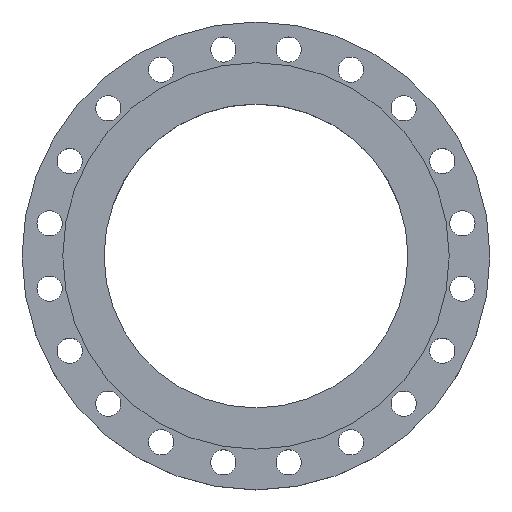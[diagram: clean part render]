
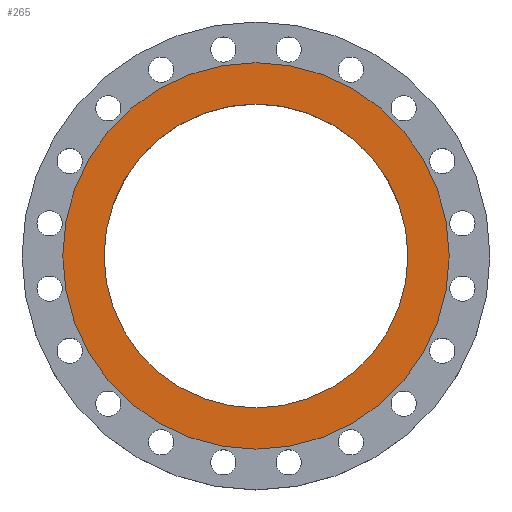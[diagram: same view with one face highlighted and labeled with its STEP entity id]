
A CAD part, top view. The second image highlights one B-rep face of the part: STEP entity #265.
In plain terms, the highlighted planar face has unit normal (0, 0, 1).
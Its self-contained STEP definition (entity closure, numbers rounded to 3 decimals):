
#11 = EDGE_CURVE ( 'NONE', #705, #2032, #830, .T. ) ;
#57 = AXIS2_PLACEMENT_3D ( 'NONE', #1629, #1624, #1623 ) ;
#92 = AXIS2_PLACEMENT_3D ( 'NONE', #173, #408, #323 ) ;
#133 = AXIS2_PLACEMENT_3D ( 'NONE', #1433, #1432, #1428 ) ;
#154 = AXIS2_PLACEMENT_3D ( 'NONE', #922, #921, #920 ) ;
#173 = CARTESIAN_POINT ( 'NONE',  ( 0., 0., 16. ) ) ;
#208 = CIRCLE ( 'NONE', #57, 367.5 ) ;
#253 = AXIS2_PLACEMENT_3D ( 'NONE', #1973, #1971, #1969 ) ;
#265 = ADVANCED_FACE ( 'NONE', ( #1981, #1977 ), #1974, .T. ) ;
#323 = DIRECTION ( 'NONE',  ( 1., 0., 0. ) ) ;
#408 = DIRECTION ( 'NONE',  ( 0., 0., 1. ) ) ;
#437 = VERTEX_POINT ( 'NONE', #1243 ) ;
#452 = CARTESIAN_POINT ( 'NONE',  ( -367.5, 0., 16. ) ) ;
#517 = ORIENTED_EDGE ( 'NONE', *, *, #1334, .T. ) ;
#705 = VERTEX_POINT ( 'NONE', #1044 ) ;
#830 = CIRCLE ( 'NONE', #92, 367.5 ) ;
#845 = ORIENTED_EDGE ( 'NONE', *, *, #11, .T. ) ;
#849 = CARTESIAN_POINT ( 'NONE',  ( -289., 0., 16. ) ) ;
#868 = EDGE_CURVE ( 'NONE', #953, #437, #870, .T. ) ;
#870 = CIRCLE ( 'NONE', #154, 289. ) ;
#920 = DIRECTION ( 'NONE',  ( 1., 0., 0. ) ) ;
#921 = DIRECTION ( 'NONE',  ( 0., 0., 1. ) ) ;
#922 = CARTESIAN_POINT ( 'NONE',  ( 0., 0., 16. ) ) ;
#935 = CIRCLE ( 'NONE', #133, 289. ) ;
#953 = VERTEX_POINT ( 'NONE', #849 ) ;
#1044 = CARTESIAN_POINT ( 'NONE',  ( 367.5, 0., 16. ) ) ;
#1243 = CARTESIAN_POINT ( 'NONE',  ( 289., 0., 16. ) ) ;
#1334 = EDGE_CURVE ( 'NONE', #2032, #705, #208, .T. ) ;
#1428 = DIRECTION ( 'NONE',  ( 1., 0., 0. ) ) ;
#1432 = DIRECTION ( 'NONE',  ( 0., 0., 1. ) ) ;
#1433 = CARTESIAN_POINT ( 'NONE',  ( 0., 0., 16. ) ) ;
#1565 = EDGE_LOOP ( 'NONE', ( #1636, #1917 ) ) ;
#1607 = EDGE_CURVE ( 'NONE', #437, #953, #935, .T. ) ;
#1623 = DIRECTION ( 'NONE',  ( 1., 0., 0. ) ) ;
#1624 = DIRECTION ( 'NONE',  ( 0., 0., 1. ) ) ;
#1629 = CARTESIAN_POINT ( 'NONE',  ( 0., 0., 16. ) ) ;
#1636 = ORIENTED_EDGE ( 'NONE', *, *, #1607, .F. ) ;
#1688 = EDGE_LOOP ( 'NONE', ( #845, #517 ) ) ;
#1917 = ORIENTED_EDGE ( 'NONE', *, *, #868, .F. ) ;
#1969 = DIRECTION ( 'NONE',  ( 1., 0., 0. ) ) ;
#1971 = DIRECTION ( 'NONE',  ( 0., 0., 1. ) ) ;
#1973 = CARTESIAN_POINT ( 'NONE',  ( 367.5, 0., 16. ) ) ;
#1974 = PLANE ( 'NONE',  #253 ) ;
#1977 = FACE_BOUND ( 'NONE', #1565, .T. ) ;
#1981 = FACE_OUTER_BOUND ( 'NONE', #1688, .T. ) ;
#2032 = VERTEX_POINT ( 'NONE', #452 ) ;
